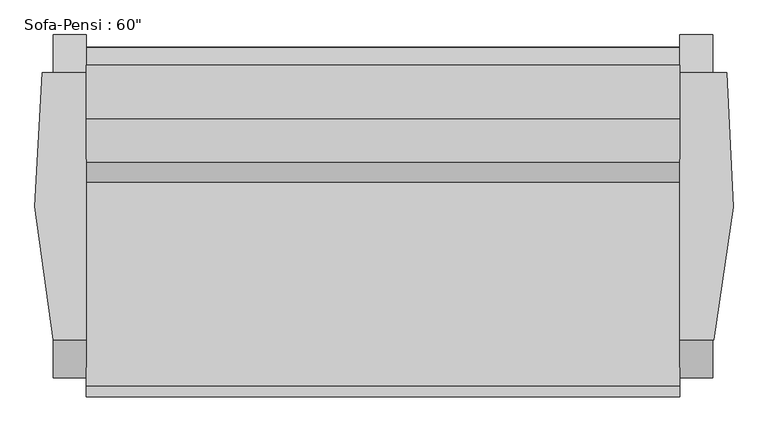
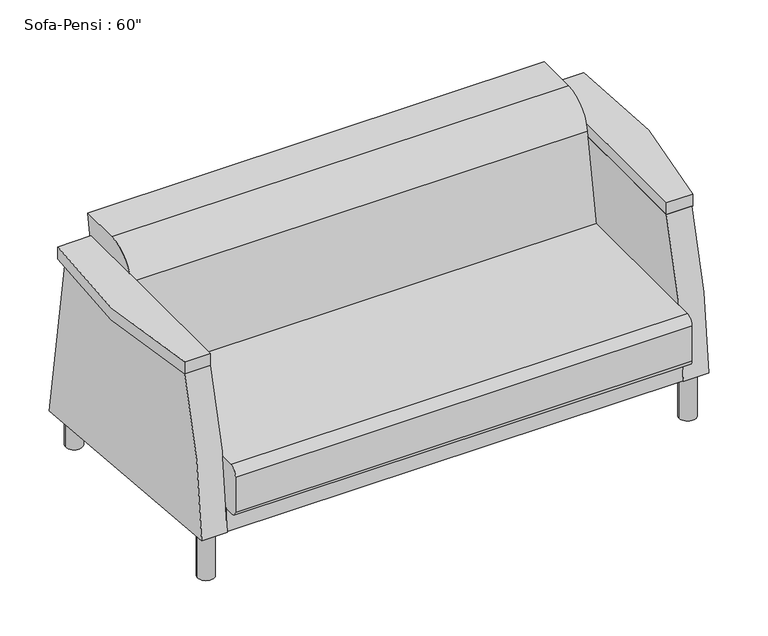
"""IFC4 building model written with IfcOpenShell, lengths in millimetres: furniture geometry."""

from ifc_helpers import new_model, si_unit, point, frame, frame_2d, origin, origin_with_axes, place, context, project, spatial, polyline, circle_curve, trimmed, segment, composite_curve, outline, extrude, source, transform, mapped, element, save


def furniture_de074a7a(model_context):
    return source(origin(), model_context, "Body", "SweptSolid", [
        extrude(outline(composite_curve([segment(trimmed(circle_curve(frame_2d((-445.29375, -53.0901639)), 25.4), [point((-470.69375, -53.0901639))], [point((-419.89375, -53.0901639))], False, "CARTESIAN"), True, "CONTINUOUS"), segment(trimmed(circle_curve(frame_2d((-445.29375, -53.0901639)), 25.4), [point((-419.89375, -53.0901639))], [point((-470.69375, -53.0901639))], False, "CARTESIAN"), True, "CONTINUOUS")], self_intersect=False)), origin_with_axes(), (0.0, 0.0, 1.0), 148.43125),
        extrude(outline(composite_curve([segment(trimmed(circle_curve(frame_2d((-445.29375, 632.7098361)), 25.4), [point((-470.69375, 632.7098361))], [point((-419.89375, 632.7098361))], False, "CARTESIAN"), True, "CONTINUOUS"), segment(trimmed(circle_curve(frame_2d((-445.29375, 632.7098361)), 25.4), [point((-419.89375, 632.7098361))], [point((-470.69375, 632.7098361))], False, "CARTESIAN"), True, "CONTINUOUS")], self_intersect=False)), origin_with_axes(), (0.0, 0.0, 1.0), 148.43125),
        extrude(outline(composite_curve([segment(trimmed(circle_curve(frame_2d((1002.50625, 632.7098361)), 25.4), [point((977.10625, 632.7098361))], [point((1027.90625, 632.7098361))], False, "CARTESIAN"), True, "CONTINUOUS"), segment(trimmed(circle_curve(frame_2d((1002.50625, 632.7098361)), 25.4), [point((1027.90625, 632.7098361))], [point((977.10625, 632.7098361))], False, "CARTESIAN"), True, "CONTINUOUS")], self_intersect=False)), origin_with_axes(), (0.0, 0.0, 1.0), 148.43125),
        extrude(outline(composite_curve([segment(trimmed(circle_curve(frame_2d((1002.50625, -53.0901639)), 25.4), [point((977.10625, -53.0901639))], [point((1027.90625, -53.0901639))], False, "CARTESIAN"), True, "CONTINUOUS"), segment(trimmed(circle_curve(frame_2d((1002.50625, -53.0901639)), 25.4), [point((1027.90625, -53.0901639))], [point((977.10625, -53.0901639))], False, "CARTESIAN"), True, "CONTINUOUS")], self_intersect=False)), origin_with_axes(), (0.0, 0.0, 1.0), 148.43125),
        extrude(outline(polyline([(964.40625, 668.3047863), (964.40625, -93.6952137), (-407.19375, -93.6952137), (-407.19375, 668.3047863), (964.40625, 668.3047863)])), frame((0.0, 0.0, 148.0509954), z_axis=(0.0, 0.0, 1.0), x_axis=(1.0, 0.0, 0.0)), (0.0, 0.0, 1.0), 76.2),
        extrude(outline(composite_curve([segment(polyline([(-9.3943348, 626.0203985), (608.6917937, 626.0203985), (696.2098361, 79.844579), (-97.7900405, 149.3105671)]), True, "CONTINUOUS"), segment(trimmed(circle_curve(frame_2d((1499.9783711, 99.5888442)), 1598.5418814), [point((-97.7900405, 149.3105671))], [point((-9.3943348, 626.0203985))], False, "CARTESIAN"), True, "CONTINUOUS")], self_intersect=False)), frame((-483.39375, 0.0, 0.0), z_axis=(1.0, 0.0, 0.0), x_axis=(0.0, 1.0, 0.0)), (0.0, 0.0, 1.0), 76.2),
        extrude(outline(composite_curve([segment(polyline([(696.2098361, 79.844579), (-97.7900405, 149.3105671)]), True, "CONTINUOUS"), segment(trimmed(circle_curve(frame_2d((1499.9783711, 99.5888442)), 1598.5418814), [point((-97.7900405, 149.3105671))], [point((-9.3943348, 626.0203985))], False, "CARTESIAN"), True, "CONTINUOUS"), segment(polyline([(-9.3943348, 626.0203985), (608.6917937, 626.0203985), (696.2098361, 79.844579)]), True, "CONTINUOUS")], self_intersect=False)), frame((964.40625, 0.0, 0.0), z_axis=(1.0, 0.0, 0.0), x_axis=(0.0, 1.0, 0.0)), (0.0, 0.0, 1.0), 76.2),
        extrude(outline(composite_curve([segment(trimmed(circle_curve(frame_2d((-116.5901639, 351.2509954)), 25.4), [point((-141.9901639, 351.2509954))], [point((-116.5901639, 376.6509954))], False, "CARTESIAN"), True, "CONTINUOUS"), segment(polyline([(-116.5901639, 376.6509954), (355.3895541, 376.6509954), (402.1988177, 642.1195211)]), True, "CONTINUOUS"), segment(trimmed(circle_curve(frame_2d((502.2552854, 624.4768662)), 101.6), [point((402.1988177, 642.1195211))], [point((502.2552854, 726.0768662))], False, "CARTESIAN"), True, "CONTINUOUS"), segment(polyline([(502.2552854, 726.0768662), (626.3344485, 726.0768662), (609.5377828, 620.1719187), (667.6541767, 224.2509954), (-126.1151639, 224.2509954)]), True, "CONTINUOUS"), segment(trimmed(circle_curve(frame_2d((-126.1151639, 240.1259954)), 15.875), [point((-126.1151639, 224.2509954))], [point((-141.9901639, 240.1259954))], False, "CARTESIAN"), True, "CONTINUOUS"), segment(polyline([(-141.9901639, 240.1259954), (-141.9901639, 351.2509954)]), True, "CONTINUOUS")], self_intersect=False)), frame((-407.19375, 0.0, 0.0), z_axis=(1.0, 0.0, 0.0), x_axis=(0.0, 1.0, 0.0)), (0.0, 0.0, 1.0), 1371.6),
        extrude(outline(composite_curve([segment(polyline([(-407.19375, -9.3943348), (-483.39375, -9.3943348)]), True, "CONTINUOUS"), segment(trimmed(circle_curve(frame_2d((1074.7527561, 364.2020325)), 1602.3092024), [point((-483.39375, -9.3943348))], [point((-508.79375, 608.6917935))], False, "CARTESIAN"), True, "CONTINUOUS"), segment(polyline([(-508.79375, 608.6917935), (-407.19375, 608.6917935), (-407.19375, -9.3943348)]), True, "CONTINUOUS")], self_intersect=False)), frame((0.0, 0.0, 626.0203985), z_axis=(0.0, 0.0, 1.0), x_axis=(1.0, 0.0, 0.0)), (0.0, 0.0, 1.0), 38.1),
        extrude(outline(composite_curve([segment(polyline([(964.40625, -9.3943348), (964.40625, 608.9395268), (1073.0864453, 608.9395268)]), True, "CONTINUOUS"), segment(trimmed(circle_curve(frame_2d((-516.5771494, 377.0770652)), 1606.4839076), [point((1073.0864453, 608.9395268))], [point((1042.7273117, -9.3943348))], False, "CARTESIAN"), True, "CONTINUOUS"), segment(polyline([(1042.7273117, -9.3943348), (964.40625, -9.3943348)]), True, "CONTINUOUS")], self_intersect=False)), frame((0.0, 0.0, 626.0203985), z_axis=(0.0, 0.0, 1.0), x_axis=(1.0, 0.0, 0.0)), (0.0, 0.0, 1.0), 38.1),
    ])


if __name__ == "__main__":
    model = new_model("IFC4")
    model_context = context("Model", 3, world=origin())
    ifc_project = project(units=[si_unit("LENGTHUNIT", "METRE", prefix="MILLI")], contexts=[model_context])
    site = spatial("IfcSite", under=ifc_project)
    building = spatial("IfcBuilding", under=site)
    placement = place(None, origin())
    furniture_shape = furniture_de074a7a(model_context)
    element("IfcFurniture", 1, ObjectType="Sofa-Pensi : 60\"", at=placement, inside=building, context=model_context, shape_type="MappedRepresentation", body=[
        mapped(furniture_shape, transform((0.0, 0.0, 0.0), x_axis=(1.0, 0.0, 0.0), y_axis=(0.0, 1.0, 0.0), z_axis=(0.0, 0.0, 1.0))),
    ])
    save(model, "model.ifc")
